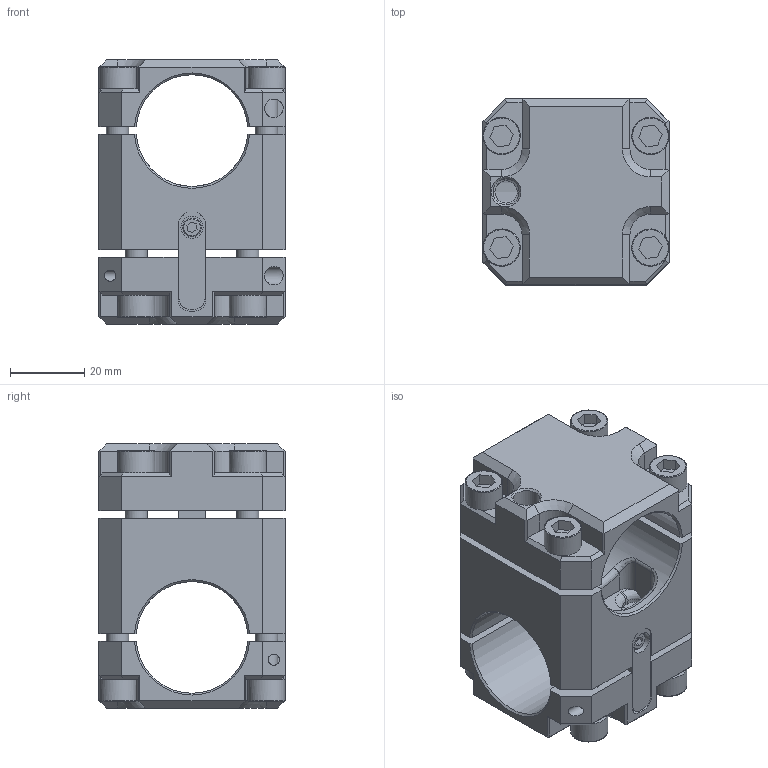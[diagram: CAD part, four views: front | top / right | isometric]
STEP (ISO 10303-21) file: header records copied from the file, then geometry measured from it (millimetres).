
FILE_DESCRIPTION(/* description */ (''),/* implementation_level */ '2;1');
FILE_NAME(/* name */ 'SMBT2-3030.stp',/* time_stamp */ '2022-06-28T11:06:08+08:00',/* author */ (''),/* organization */ (''),/* preprocessor_version */ 'ST-DEVELOPER v16',/* originating_system */ 'SIEMENS PLM Software NX 10.0',/* authorisation */ '');
FILE_SCHEMA (('AUTOMOTIVE_DESIGN { 1 0 10303 214 3 1 1 1 }'));
Length unit declared in the file: millimetre
Products named in the file (1): Admi2408D5D05ye4
Bounding box: 50 x 50 x 71 mm (x, y, z)
Volume: 78428.9 mm3; surface area: 39064.4 mm2
Topology: 1 solids, 11 shells, 528 faces, 1332 edges, 852 vertices
Faces by surface type: plane 306, cylinder 134, cone 40, revolution 28, bspline 20
Full cylindrical faces by diameter (mm): 3 x6, 3.5 x2, 4 x2, 5 x12, 6 x20, 6.2 x8, 7 x4, 10 x8
Entity records: 22152 total; most frequent: CARTESIAN_POINT 6505, DIRECTION 2400, ORIENTED_EDGE 2344, EDGE_CURVE 1172, AXIS2_PLACEMENT_3D 813, VERTEX_POINT 802, LINE 746, VECTOR 746
